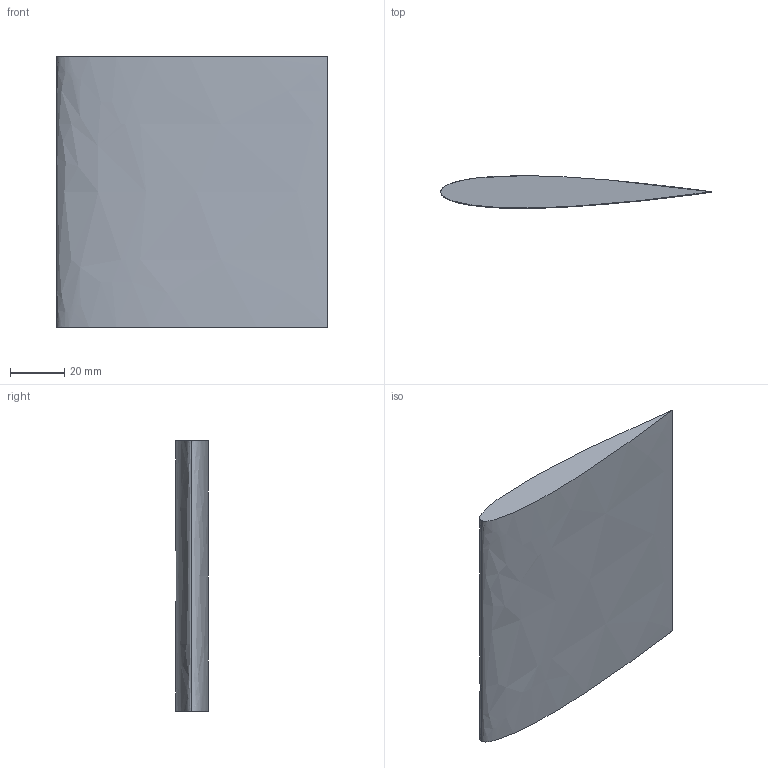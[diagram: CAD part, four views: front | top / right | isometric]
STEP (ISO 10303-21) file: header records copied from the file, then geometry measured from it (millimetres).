
FILE_DESCRIPTION(/* description */ ('STEP AP242','CAx-IF Rec.Pracs.---Representation and Presentation of Product Manufacturing Information (PMI)---4.0---2014-10-13','CAx-IF Rec.Pracs.---3D Tessellated Geometry---0.4---2014-09-14','2;1'),/* implementation_level */ '2;1');
FILE_NAME(/* name */ '64e1f17de70e580f31912a46',/* time_stamp */ '2023-08-20T10:57:02Z',/* author */ (''),/* organization */ (''),/* preprocessor_version */ 'ST-DEVELOPER v19.4',/* originating_system */ ' ',/* authorisation */ ' ');
FILE_SCHEMA (('AP242_MANAGED_MODEL_BASED_3D_ENGINEERING_MIM_LF { 1 0 10303 442 1 1 4 }'));
Length unit declared in the file: metre
Products named in the file (1): 3D-Airfoil
Bounding box: 100 x 12 x 100 mm (x, y, z)
Volume: 81903.9 mm3; surface area: 22029.4 mm2
Topology: 1 solids, 1 shells, 4 faces, 6 edges, 4 vertices
Faces by surface type: bspline 2, plane 2
Entity records: 680 total; most frequent: CARTESIAN_POINT 597, ORIENTED_EDGE 12, DIRECTION 8, EDGE_CURVE 6, VERTEX_POINT 4, B_SPLINE_CURVE_WITH_KNOTS 4, EDGE_LOOP 4, FACE_BOUND 4
